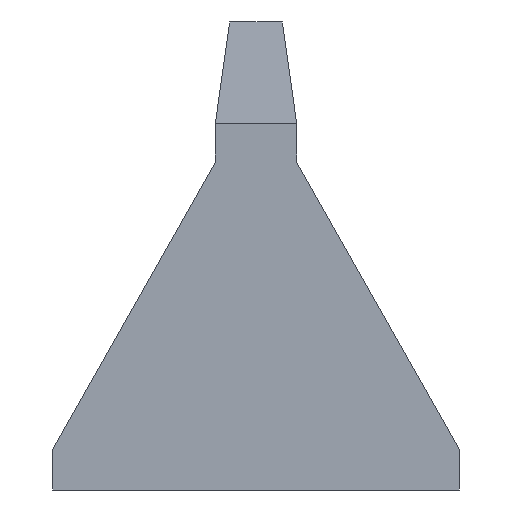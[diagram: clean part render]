
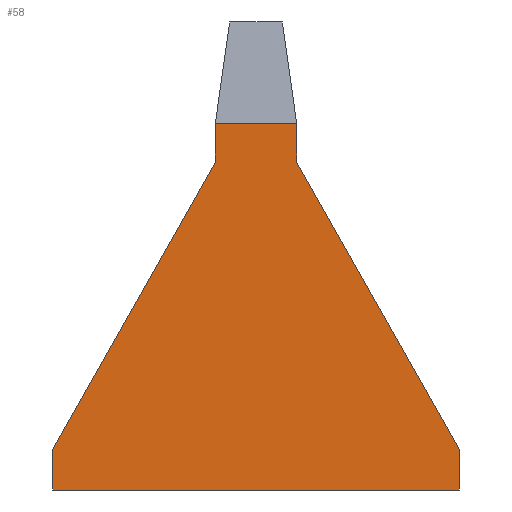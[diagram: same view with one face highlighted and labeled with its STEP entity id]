
A CAD part, left-side view. The second image highlights one B-rep face of the part: STEP entity #58.
In plain terms, the highlighted planar face has unit normal (-1, 0, 0).
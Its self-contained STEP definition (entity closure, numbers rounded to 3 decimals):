
#58=ADVANCED_FACE('',(#787),#789,.T.);
#787=FACE_BOUND('',#788,.T.);
#788=EDGE_LOOP('',(#1354,#1355,#1356,#1357,#1358,#1359,#1360,#1361));
#789=PLANE('',#790);
#790=AXIS2_PLACEMENT_3D('',#791,#792,#793);
#791=CARTESIAN_POINT('',(0.,30.,0.));
#792=DIRECTION('',(-1.,0.,0.));
#793=DIRECTION('',(0.,-1.,0.));
#1354=ORIENTED_EDGE('',*,*,#1732,.T.);
#1355=ORIENTED_EDGE('',*,*,#1733,.F.);
#1356=ORIENTED_EDGE('',*,*,#1734,.T.);
#1357=ORIENTED_EDGE('',*,*,#1735,.F.);
#1358=ORIENTED_EDGE('',*,*,#1736,.F.);
#1359=ORIENTED_EDGE('',*,*,#1737,.T.);
#1360=ORIENTED_EDGE('',*,*,#1738,.T.);
#1361=ORIENTED_EDGE('',*,*,#1739,.F.);
#1732=EDGE_CURVE('',#1921,#1922,#1923,.T.);
#1733=EDGE_CURVE('',#1924,#1922,#1925,.T.);
#1734=EDGE_CURVE('',#1924,#1926,#1927,.F.);
#1735=EDGE_CURVE('',#1928,#1926,#1929,.F.);
#1736=EDGE_CURVE('',#1930,#1928,#1931,.T.);
#1737=EDGE_CURVE('',#1930,#1932,#1933,.T.);
#1738=EDGE_CURVE('',#1932,#1934,#1935,.T.);
#1739=EDGE_CURVE('',#1921,#1934,#1936,.F.);
#1921=VERTEX_POINT('',#2220);
#1922=VERTEX_POINT('',#2221);
#1923=LINE('',#2222,#2223);
#1924=VERTEX_POINT('',#2225);
#1925=LINE('',#2226,#2227);
#1926=VERTEX_POINT('',#2229);
#1927=LINE('',#2230,#2231);
#1928=VERTEX_POINT('',#2233);
#1929=LINE('',#2234,#2235);
#1930=VERTEX_POINT('',#2237);
#1931=LINE('',#2238,#2239);
#1932=VERTEX_POINT('',#2241);
#1933=LINE('',#2242,#2243);
#1934=VERTEX_POINT('',#2245);
#1935=LINE('',#2246,#2247);
#1936=LINE('',#2249,#2250);
#2220=CARTESIAN_POINT('',(0.,0.,8.058));
#2221=CARTESIAN_POINT('',(0.,0.,9.));
#2222=CARTESIAN_POINT('',(0.,0.,8.058));
#2223=VECTOR('',#2224,1.);
#2224=DIRECTION('',(0.,0.,1.));
#2225=CARTESIAN_POINT('',(0.,2.,9.));
#2226=CARTESIAN_POINT('',(0.,2.,9.));
#2227=VECTOR('',#2228,1.);
#2228=DIRECTION('',(0.,-1.,0.));
#2229=CARTESIAN_POINT('',(0.,2.,8.058));
#2230=CARTESIAN_POINT('',(0.,2.,8.058));
#2231=VECTOR('',#2232,1.);
#2232=DIRECTION('',(0.,0.,1.));
#2233=CARTESIAN_POINT('',(0.,6.,1.));
#2234=CARTESIAN_POINT('',(0.,2.,8.058));
#2235=VECTOR('',#2236,1.);
#2236=DIRECTION('',(0.,0.493,-0.87));
#2237=CARTESIAN_POINT('',(0.,6.,0.));
#2238=CARTESIAN_POINT('',(0.,6.,0.));
#2239=VECTOR('',#2240,1.);
#2240=DIRECTION('',(0.,0.,1.));
#2241=CARTESIAN_POINT('',(0.,-4.,0.));
#2242=CARTESIAN_POINT('',(0.,6.,0.));
#2243=VECTOR('',#2244,1.);
#2244=DIRECTION('',(0.,-1.,0.));
#2245=CARTESIAN_POINT('',(0.,-4.,1.));
#2246=CARTESIAN_POINT('',(0.,-4.,0.));
#2247=VECTOR('',#2248,1.);
#2248=DIRECTION('',(0.,0.,1.));
#2249=CARTESIAN_POINT('',(0.,-4.,1.));
#2250=VECTOR('',#2251,1.);
#2251=DIRECTION('',(0.,0.493,0.87));
